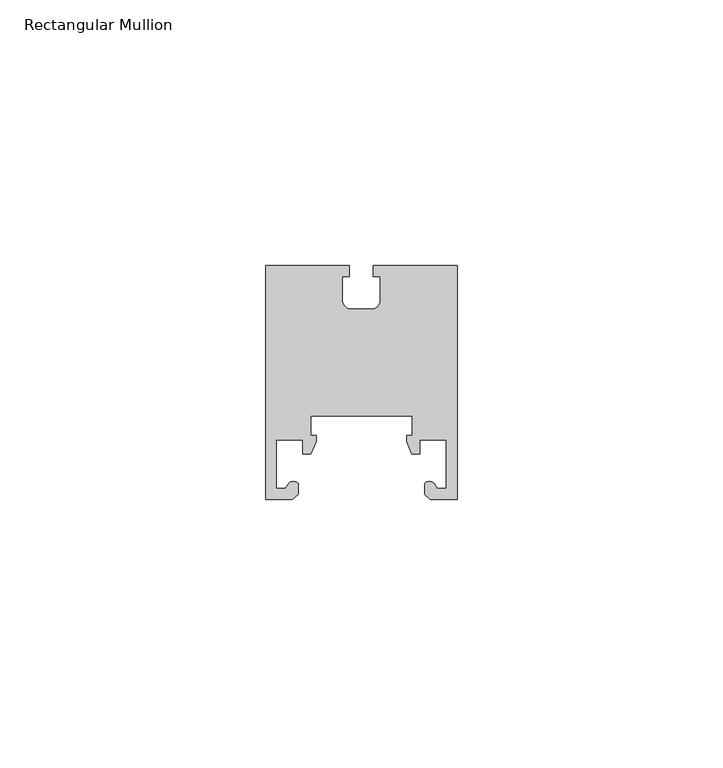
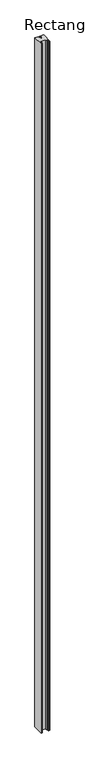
"""IFC4 building model written with IfcOpenShell, lengths in millimetres: member geometry, Rectangular Mullion : NLRS_21_CWM_drager LD.0460 - links_Storax."""

from ifc_helpers import new_model, si_unit, point, frame, frame_2d, origin, place, context, project, spatial, polyline, circle_curve, trimmed, segment, composite_curve, outline, extrude, source, transform, mapped, element, save


def rectangular_mullion_c2c7736a(model_context):
    return source(origin(), model_context, "Body", "SweptSolid", [
        extrude(outline(composite_curve([segment(polyline([(-50.0, -45.0), (-55.0, -45.0), (-56.1000941, -44.0769114), (-56.1000941, -42.061549)]), True, "CONTINUOUS"), segment(trimmed(circle_curve(frame_2d((-55.2049928, -42.8498072)), 1.1927101), [point((-56.1000941, -42.061549))], [point((-54.3098916, -42.061549))], False, "CARTESIAN"), True, "CONTINUOUS"), segment(polyline([(-54.3098916, -42.061549), (-53.6747557, -42.9686169), (-52.0, -42.9686169), (-52.0, -33.8153021), (-56.9750091, -33.8153021), (-56.9750091, -36.4593247), (-58.4932704, -36.4593247), (-59.5019532, -34.083017), (-59.5019532, -32.9566029), (-58.4624547, -32.9566029), (-58.4624547, -29.3621189), (-77.5375453, -29.3621189), (-77.5375453, -32.9566029), (-76.4980468, -32.9566029), (-76.4980468, -34.083017), (-77.5067296, -36.4593247), (-79.0249909, -36.4593247), (-79.0249909, -33.8153021), (-84.0, -33.8153021), (-84.0, -42.9686169), (-82.3252443, -42.9686169), (-81.6901084, -42.061549)]), True, "CONTINUOUS"), segment(trimmed(circle_curve(frame_2d((-80.7950072, -42.8498072)), 1.1927101), [point((-81.6901084, -42.061549))], [point((-79.8999059, -42.061549))], False, "CARTESIAN"), True, "CONTINUOUS"), segment(polyline([(-79.8999059, -42.061549), (-79.8999059, -44.0769114), (-81.0, -45.0), (-86.0, -45.0), (-86.0, -1.0), (-70.2489445, -1.0), (-70.2489445, -3.0843142), (-71.59041, -3.0843142), (-71.59041, -7.4667227)]), True, "CONTINUOUS"), segment(trimmed(circle_curve(frame_2d((-69.8285608, -7.4667227)), 1.7618492), [point((-71.59041, -7.4667227))], [point((-70.0972447, -9.2079641))], True, "CARTESIAN"), True, "CONTINUOUS"), segment(polyline([(-70.0972447, -9.2079641), (-66.440123, -9.2079641)]), True, "CONTINUOUS"), segment(trimmed(circle_curve(frame_2d((-66.1714392, -7.4667227)), 1.7618492), [point((-66.440123, -9.2079641))], [point((-64.40959, -7.4667227))], True, "CARTESIAN"), True, "CONTINUOUS"), segment(polyline([(-64.40959, -7.4667227), (-64.40959, -3.0843142), (-65.7510555, -3.0843142), (-65.7510555, -1.0), (-50.0, -1.0), (-50.0, -45.0)]), True, "CONTINUOUS")], self_intersect=False)), frame((0.0, 0.0, -3000.0), z_axis=(0.0, 0.0, 1.0), x_axis=(1.0, 0.0, 0.0)), (0.0, 0.0, 1.0), 3000.0),
    ])


if __name__ == "__main__":
    model = new_model("IFC4")
    model_context = context("Model", 3, world=origin())
    ifc_project = project(units=[si_unit("LENGTHUNIT", "METRE", prefix="MILLI")], contexts=[model_context])
    site = spatial("IfcSite", under=ifc_project)
    building = spatial("IfcBuilding", under=site)
    placement = place(None, origin())
    rectangular_mullion_shape = rectangular_mullion_c2c7736a(model_context)
    element("IfcMember", 1, ObjectType="Rectangular Mullion : NLRS_21_CWM_drager LD.0460 - links_Storax", at=placement, inside=building, context=model_context, shape_type="MappedRepresentation", body=[
        mapped(rectangular_mullion_shape, transform((0.0, 0.0, 0.0), x_axis=(1.0, 0.0, 0.0), y_axis=(0.0, 1.0, 0.0), z_axis=(0.0, 0.0, 1.0))),
    ])
    save(model, "model.ifc")
